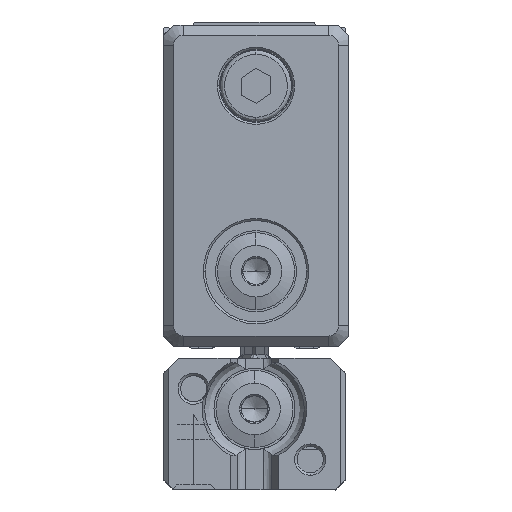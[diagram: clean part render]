
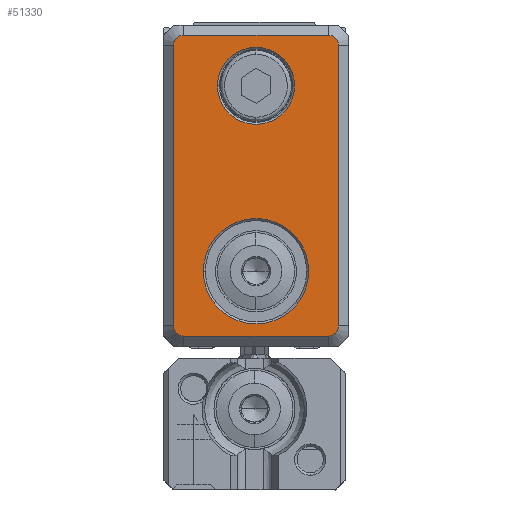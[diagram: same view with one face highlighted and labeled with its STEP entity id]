
A CAD part, left-side view. The second image highlights one B-rep face of the part: STEP entity #51330.
In plain terms, the highlighted planar face has unit normal (-1, 0, 0).
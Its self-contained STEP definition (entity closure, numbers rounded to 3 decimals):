
#8640=CARTESIAN_POINT('',(-877.138,43.35,
-56.983));
#8650=VERTEX_POINT('',#8640);
#8680=CARTESIAN_POINT('',(-877.138,38.15,
-56.983));
#8690=DIRECTION('',(1.,0.,0.));
#8700=DIRECTION('',(0.,-1.,0.));
#8710=AXIS2_PLACEMENT_3D('',#8680,#8690,#8700);
#8720=CIRCLE('',#8710,5.2);
#8730=CARTESIAN_POINT('',(-877.138,32.95,
-56.983));
#8740=VERTEX_POINT('',#8730);
#8750=EDGE_CURVE('',#8650,#8740,#8720,.T.);
#12240=CARTESIAN_POINT('',(-877.138,31.,
-50.583));
#12250=VERTEX_POINT('',#12240);
#13060=CARTESIAN_POINT('',(-877.138,30.,
-51.583));
#13070=VERTEX_POINT('',#13060);
#13100=CARTESIAN_POINT('',(-877.138,31.,
-51.583));
#13110=DIRECTION('',(1.,0.,0.));
#13120=DIRECTION('',(0.,1.,0.));
#13130=AXIS2_PLACEMENT_3D('',#13100,#13110,#13120);
#13140=CIRCLE('',#13130,1.);
#13150=EDGE_CURVE('',#12250,#13070,#13140,.T.);
#25640=CARTESIAN_POINT('',(-877.138,41.95,
-75.283));
#25650=VERTEX_POINT('',#25640);
#25810=CARTESIAN_POINT('',(-877.138,34.35,
-75.283));
#25820=VERTEX_POINT('',#25810);
#25850=CARTESIAN_POINT('',(-877.138,38.15,
-75.283));
#25860=DIRECTION('',(-1.,0.,0.));
#25870=DIRECTION('',(0.,1.,0.));
#25880=AXIS2_PLACEMENT_3D('',#25850,#25860,#25870);
#25890=CIRCLE('',#25880,3.8);
#25900=EDGE_CURVE('',#25650,#25820,#25890,.T.);
#37330=CARTESIAN_POINT('',(-877.138,45.3,
-50.583));
#37340=VERTEX_POINT('',#37330);
#37390=CARTESIAN_POINT('',(-877.138,46.75,
-50.583));
#37400=DIRECTION('',(0.,1.,0.));
#37410=VECTOR('',#37400,1.);
#37420=LINE('',#37390,#37410);
#37430=EDGE_CURVE('',#12250,#37340,#37420,.T.);
#37590=CARTESIAN_POINT('',(-877.138,46.3,
-51.583));
#37600=VERTEX_POINT('',#37590);
#38130=CARTESIAN_POINT('',(-877.138,45.3,
-51.583));
#38140=DIRECTION('',(1.,0.,0.));
#38150=DIRECTION('',(0.,1.,0.));
#38160=AXIS2_PLACEMENT_3D('',#38130,#38140,#38150);
#38170=CIRCLE('',#38160,1.);
#38180=EDGE_CURVE('',#37600,#37340,#38170,.T.);
#38390=CARTESIAN_POINT('',(-877.138,46.3,
-79.283));
#38400=VERTEX_POINT('',#38390);
#38520=CARTESIAN_POINT('',(-877.138,46.3,
-49.133));
#38530=DIRECTION('',(0.,0.,-1.));
#38540=VECTOR('',#38530,1.);
#38550=LINE('',#38520,#38540);
#38560=EDGE_CURVE('',#37600,#38400,#38550,.T.);
#38690=CARTESIAN_POINT('',(-877.138,45.3,
-79.283));
#38700=DIRECTION('',(1.,0.,0.));
#38710=DIRECTION('',(0.,1.,0.));
#38720=AXIS2_PLACEMENT_3D('',#38690,#38700,#38710);
#38730=CIRCLE('',#38720,1.);
#38740=CARTESIAN_POINT('',(-877.138,45.3,
-80.283));
#38750=VERTEX_POINT('',#38740);
#38760=EDGE_CURVE('',#38750,#38400,#38730,.T.);
#41080=CARTESIAN_POINT('',(-877.138,31.,
-80.283));
#41090=VERTEX_POINT('',#41080);
#41140=CARTESIAN_POINT('',(-877.138,46.75,
-80.283));
#41150=DIRECTION('',(0.,-1.,0.));
#41160=VECTOR('',#41150,1.);
#41170=LINE('',#41140,#41160);
#41180=EDGE_CURVE('',#38750,#41090,#41170,.T.);
#41540=CARTESIAN_POINT('',(-877.138,31.,
-79.283));
#41550=DIRECTION('',(1.,0.,0.));
#41560=DIRECTION('',(0.,1.,0.));
#41570=AXIS2_PLACEMENT_3D('',#41540,#41550,#41560);
#41580=CIRCLE('',#41570,1.);
#41590=CARTESIAN_POINT('',(-877.138,30.,
-79.283));
#41600=VERTEX_POINT('',#41590);
#41610=EDGE_CURVE('',#41600,#41090,#41580,.T.);
#41880=CARTESIAN_POINT('',(-877.138,30.,
-49.133));
#41890=DIRECTION('',(0.,0.,1.));
#41900=VECTOR('',#41890,1.);
#41910=LINE('',#41880,#41900);
#41920=EDGE_CURVE('',#41600,#13070,#41910,.T.);
#51080=CARTESIAN_POINT('',(-877.138,38.15,
-65.583));
#51090=DIRECTION('',(1.,0.,0.));
#51100=DIRECTION('',(0.,1.,0.));
#51110=AXIS2_PLACEMENT_3D('',#51080,#51090,#51100);
#51120=PLANE('',#51110);
#51130=EDGE_CURVE('',#8740,#8650,#8720,.T.);
#51140=ORIENTED_EDGE('',*,*,#51130,.T.);
#51150=ORIENTED_EDGE('',*,*,#8750,.T.);
#51160=EDGE_LOOP('',(#51150,#51140));
#51170=FACE_BOUND('',#51160,.T.);
#51180=EDGE_CURVE('',#25820,#25650,#25890,.T.);
#51190=ORIENTED_EDGE('',*,*,#51180,.F.);
#51200=ORIENTED_EDGE('',*,*,#25900,.F.);
#51210=EDGE_LOOP('',(#51200,#51190));
#51220=FACE_BOUND('',#51210,.T.);
#51230=ORIENTED_EDGE('',*,*,#41180,.T.);
#51240=ORIENTED_EDGE('',*,*,#38760,.F.);
#51250=ORIENTED_EDGE('',*,*,#38560,.T.);
#51260=ORIENTED_EDGE('',*,*,#38180,.F.);
#51270=ORIENTED_EDGE('',*,*,#37430,.T.);
#51280=ORIENTED_EDGE('',*,*,#13150,.F.);
#51290=ORIENTED_EDGE('',*,*,#41920,.T.);
#51300=ORIENTED_EDGE('',*,*,#41610,.F.);
#51310=EDGE_LOOP('',(#51300,#51290,#51280,#51270,#51260,#51250,#51240,
#51230));
#51320=FACE_OUTER_BOUND('',#51310,.T.);
#51330=ADVANCED_FACE('',(#51170,#51220,#51320),#51120,.F.);
